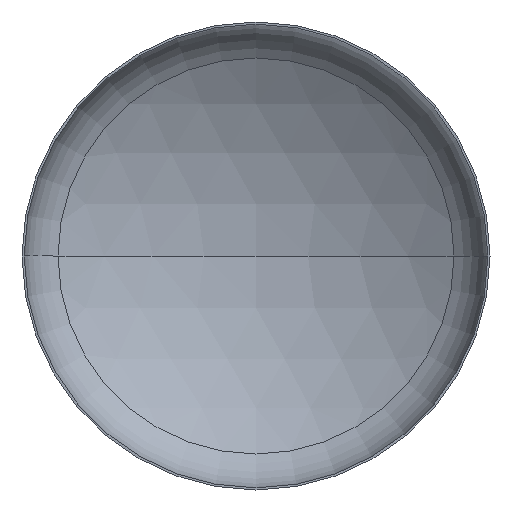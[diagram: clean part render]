
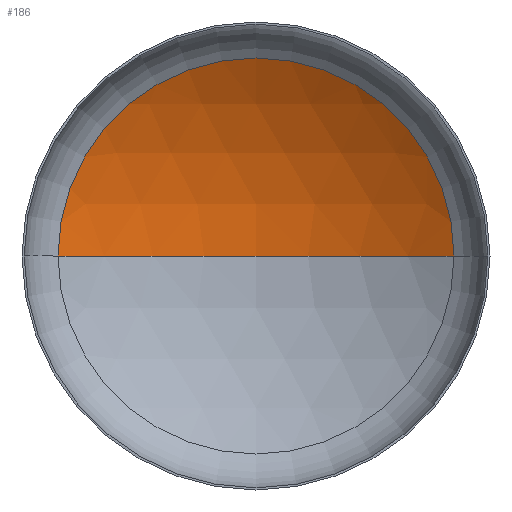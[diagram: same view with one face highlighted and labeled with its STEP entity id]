
A CAD part, front view. The second image highlights one B-rep face of the part: STEP entity #186.
In plain terms, the highlighted spherical face has radius 1200 mm.
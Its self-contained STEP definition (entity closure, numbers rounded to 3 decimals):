
#10 = AXIS2_PLACEMENT_3D ( 'NONE', #231, #119, #114 ) ;
#40 = EDGE_CURVE ( 'NONE', #63, #208, #380, .T. ) ;
#50 = SPHERICAL_SURFACE ( 'NONE', #264, 1200. ) ;
#59 = DIRECTION ( 'NONE',  ( 1., 0., 0. ) ) ;
#63 = VERTEX_POINT ( 'NONE', #281 ) ;
#68 = AXIS2_PLACEMENT_3D ( 'NONE', #70, #76, #59 ) ;
#70 = CARTESIAN_POINT ( 'NONE',  ( 0., 220.202, 0. ) ) ;
#75 = ORIENTED_EDGE ( 'NONE', *, *, #311, .T. ) ;
#76 = DIRECTION ( 'NONE',  ( 0., -1., 0. ) ) ;
#104 = AXIS2_PLACEMENT_3D ( 'NONE', #273, #138, #155 ) ;
#113 = EDGE_LOOP ( 'NONE', ( #172, #149, #75 ) ) ;
#114 = DIRECTION ( 'NONE',  ( -1., 0., 0. ) ) ;
#119 = DIRECTION ( 'NONE',  ( 0., 0., -1. ) ) ;
#131 = VERTEX_POINT ( 'NONE', #150 ) ;
#138 = DIRECTION ( 'NONE',  ( 0., 0., 1. ) ) ;
#149 = ORIENTED_EDGE ( 'NONE', *, *, #296, .T. ) ;
#150 = CARTESIAN_POINT ( 'NONE',  ( 634.639, 220.202, 0. ) ) ;
#153 = CARTESIAN_POINT ( 'NONE',  ( 0., -798.244, 0. ) ) ;
#155 = DIRECTION ( 'NONE',  ( 1., 0., 0. ) ) ;
#162 = DIRECTION ( 'NONE',  ( -1., 0., 0. ) ) ;
#172 = ORIENTED_EDGE ( 'NONE', *, *, #40, .F. ) ;
#181 = CARTESIAN_POINT ( 'NONE',  ( -634.639, 220.202, 0. ) ) ;
#186 = ADVANCED_FACE ( 'NONE', ( #370 ), #50, .F. ) ;
#208 = VERTEX_POINT ( 'NONE', #181 ) ;
#231 = CARTESIAN_POINT ( 'NONE',  ( 0., -798.244, 0. ) ) ;
#264 = AXIS2_PLACEMENT_3D ( 'NONE', #153, #360, #162 ) ;
#273 = CARTESIAN_POINT ( 'NONE',  ( 0., -798.244, 0. ) ) ;
#281 = CARTESIAN_POINT ( 'NONE',  ( 0., 401.756, 0. ) ) ;
#296 = EDGE_CURVE ( 'NONE', #63, #131, #349, .T. ) ;
#311 = EDGE_CURVE ( 'NONE', #131, #208, #400, .T. ) ;
#349 = CIRCLE ( 'NONE', #10, 1200. ) ;
#360 = DIRECTION ( 'NONE',  ( 0., 0., -1. ) ) ;
#370 = FACE_OUTER_BOUND ( 'NONE', #113, .T. ) ;
#380 = CIRCLE ( 'NONE', #104, 1200. ) ;
#400 = CIRCLE ( 'NONE', #68, 634.639 ) ;
